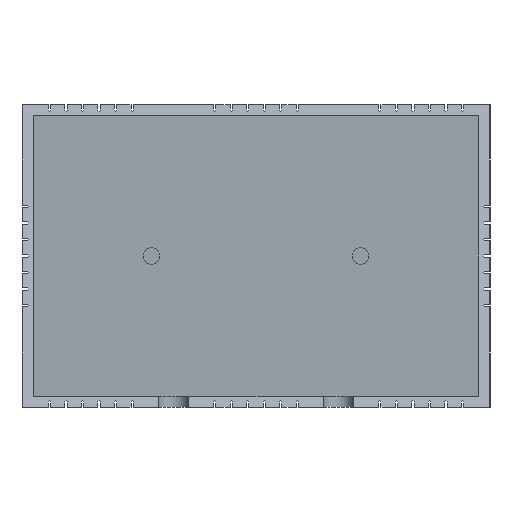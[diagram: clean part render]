
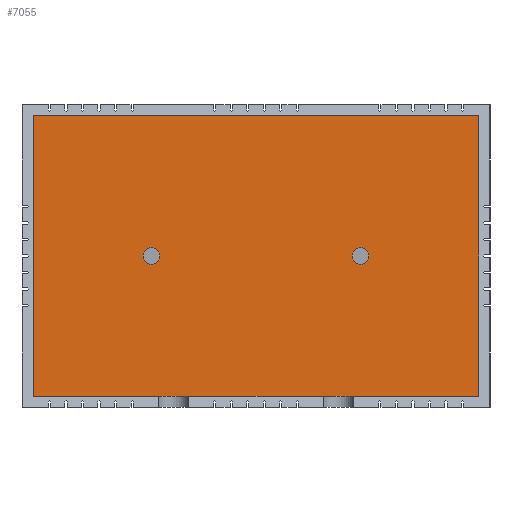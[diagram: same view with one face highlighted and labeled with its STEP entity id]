
A CAD part, left-side view. The second image highlights one B-rep face of the part: STEP entity #7055.
In plain terms, the highlighted planar face has unit normal (-1, 0, 0).
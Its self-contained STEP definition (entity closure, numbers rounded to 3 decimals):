
#34 = AXIS2_PLACEMENT_3D ( 'NONE', #5415, #248, #74 ) ;
#56 = EDGE_LOOP ( 'NONE', ( #5843, #899 ) ) ;
#74 = DIRECTION ( 'NONE',  ( 0., 0., -1. ) ) ;
#248 = DIRECTION ( 'NONE',  ( -1., 0., 0. ) ) ;
#408 = VERTEX_POINT ( 'NONE', #4701 ) ;
#517 = EDGE_CURVE ( 'NONE', #6563, #2231, #1686, .T. ) ;
#899 = ORIENTED_EDGE ( 'NONE', *, *, #3821, .F. ) ;
#912 = DIRECTION ( 'NONE',  ( 0., 0., -1. ) ) ;
#1076 = VERTEX_POINT ( 'NONE', #7053 ) ;
#1162 = AXIS2_PLACEMENT_3D ( 'NONE', #8040, #5418, #6055 ) ;
#1166 = EDGE_CURVE ( 'NONE', #4918, #408, #2524, .T. ) ;
#1521 = EDGE_CURVE ( 'NONE', #8164, #6563, #8319, .T. ) ;
#1579 = CIRCLE ( 'NONE', #4881, 1.5 ) ;
#1686 = LINE ( 'NONE', #3024, #1732 ) ;
#1732 = VECTOR ( 'NONE', #7709, 1000. ) ;
#1787 = EDGE_LOOP ( 'NONE', ( #2663, #2704 ) ) ;
#1791 = DIRECTION ( 'NONE',  ( -1., 0., 0. ) ) ;
#1845 = EDGE_CURVE ( 'NONE', #2231, #6732, #8184, .T. ) ;
#1859 = CARTESIAN_POINT ( 'NONE',  ( 31.85, -40.5, -25.5 ) ) ;
#1862 = CARTESIAN_POINT ( 'NONE',  ( 31.85, -19., 1.5 ) ) ;
#2231 = VERTEX_POINT ( 'NONE', #3480 ) ;
#2317 = FACE_BOUND ( 'NONE', #56, .T. ) ;
#2354 = DIRECTION ( 'NONE',  ( -1., 0., 0. ) ) ;
#2524 = CIRCLE ( 'NONE', #34, 1.5 ) ;
#2628 = ORIENTED_EDGE ( 'NONE', *, *, #1521, .T. ) ;
#2663 = ORIENTED_EDGE ( 'NONE', *, *, #3481, .F. ) ;
#2704 = ORIENTED_EDGE ( 'NONE', *, *, #3343, .F. ) ;
#2928 = ORIENTED_EDGE ( 'NONE', *, *, #517, .T. ) ;
#3024 = CARTESIAN_POINT ( 'NONE',  ( 31.85, -40.5, 25.5 ) ) ;
#3329 = AXIS2_PLACEMENT_3D ( 'NONE', #7773, #2354, #7727 ) ;
#3343 = EDGE_CURVE ( 'NONE', #4433, #1076, #7778, .T. ) ;
#3480 = CARTESIAN_POINT ( 'NONE',  ( 31.85, 40.5, 25.5 ) ) ;
#3481 = EDGE_CURVE ( 'NONE', #1076, #4433, #1579, .T. ) ;
#3629 = VECTOR ( 'NONE', #7588, 1000. ) ;
#3705 = CARTESIAN_POINT ( 'NONE',  ( 31.85, 40.5, -25.5 ) ) ;
#3821 = EDGE_CURVE ( 'NONE', #408, #4918, #4202, .T. ) ;
#3890 = DIRECTION ( 'NONE',  ( 0., -1., 0. ) ) ;
#3983 = ORIENTED_EDGE ( 'NONE', *, *, #4996, .T. ) ;
#4130 = CARTESIAN_POINT ( 'NONE',  ( 31.85, -40.5, -25.5 ) ) ;
#4145 = CARTESIAN_POINT ( 'NONE',  ( 31.85, 40.5, 25.5 ) ) ;
#4202 = CIRCLE ( 'NONE', #6937, 1.5 ) ;
#4433 = VERTEX_POINT ( 'NONE', #1862 ) ;
#4546 = EDGE_LOOP ( 'NONE', ( #8117, #3983, #2628, #2928 ) ) ;
#4701 = CARTESIAN_POINT ( 'NONE',  ( 31.85, 19., 1.5 ) ) ;
#4769 = FACE_BOUND ( 'NONE', #1787, .T. ) ;
#4881 = AXIS2_PLACEMENT_3D ( 'NONE', #5669, #1791, #7608 ) ;
#4918 = VERTEX_POINT ( 'NONE', #8162 ) ;
#4996 = EDGE_CURVE ( 'NONE', #6732, #8164, #5268, .T. ) ;
#5107 = PLANE ( 'NONE',  #3329 ) ;
#5139 = VECTOR ( 'NONE', #912, 1000. ) ;
#5268 = LINE ( 'NONE', #7157, #7202 ) ;
#5415 = CARTESIAN_POINT ( 'NONE',  ( 31.85, 19., 0. ) ) ;
#5418 = DIRECTION ( 'NONE',  ( -1., 0., 0. ) ) ;
#5601 = CARTESIAN_POINT ( 'NONE',  ( 31.85, -40.5, 25.5 ) ) ;
#5669 = CARTESIAN_POINT ( 'NONE',  ( 31.85, -19., 0. ) ) ;
#5843 = ORIENTED_EDGE ( 'NONE', *, *, #1166, .F. ) ;
#6055 = DIRECTION ( 'NONE',  ( 0., 0., 1. ) ) ;
#6563 = VERTEX_POINT ( 'NONE', #5601 ) ;
#6732 = VERTEX_POINT ( 'NONE', #3705 ) ;
#6937 = AXIS2_PLACEMENT_3D ( 'NONE', #6993, #8206, #7645 ) ;
#6993 = CARTESIAN_POINT ( 'NONE',  ( 31.85, 19., 0. ) ) ;
#7053 = CARTESIAN_POINT ( 'NONE',  ( 31.85, -19., -1.5 ) ) ;
#7055 = ADVANCED_FACE ( 'NONE', ( #4769, #2317, #8415 ), #5107, .T. ) ;
#7157 = CARTESIAN_POINT ( 'NONE',  ( 31.85, 40.5, -25.5 ) ) ;
#7202 = VECTOR ( 'NONE', #3890, 1000. ) ;
#7588 = DIRECTION ( 'NONE',  ( 0., 0., 1. ) ) ;
#7608 = DIRECTION ( 'NONE',  ( 0., 0., 1. ) ) ;
#7645 = DIRECTION ( 'NONE',  ( 0., 0., -1. ) ) ;
#7709 = DIRECTION ( 'NONE',  ( 0., 1., 0. ) ) ;
#7727 = DIRECTION ( 'NONE',  ( 0., 0., 1. ) ) ;
#7773 = CARTESIAN_POINT ( 'NONE',  ( 31.85, 0., 0. ) ) ;
#7778 = CIRCLE ( 'NONE', #1162, 1.5 ) ;
#8040 = CARTESIAN_POINT ( 'NONE',  ( 31.85, -19., 0. ) ) ;
#8117 = ORIENTED_EDGE ( 'NONE', *, *, #1845, .T. ) ;
#8162 = CARTESIAN_POINT ( 'NONE',  ( 31.85, 19., -1.5 ) ) ;
#8164 = VERTEX_POINT ( 'NONE', #4130 ) ;
#8184 = LINE ( 'NONE', #4145, #5139 ) ;
#8206 = DIRECTION ( 'NONE',  ( -1., 0., 0. ) ) ;
#8319 = LINE ( 'NONE', #1859, #3629 ) ;
#8415 = FACE_OUTER_BOUND ( 'NONE', #4546, .T. ) ;
